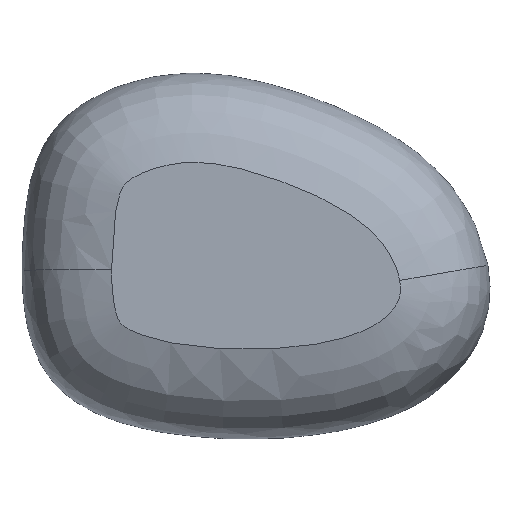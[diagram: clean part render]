
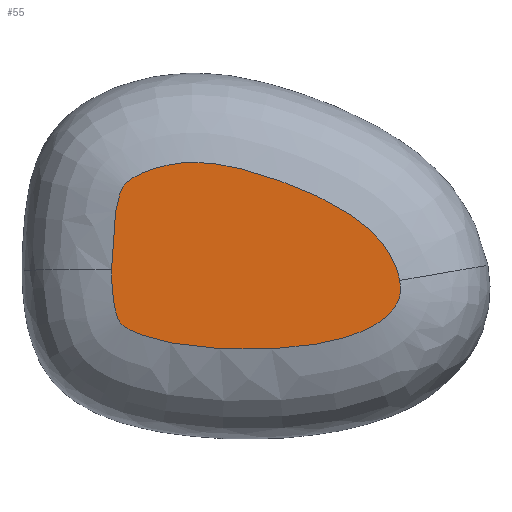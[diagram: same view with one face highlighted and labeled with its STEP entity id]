
A CAD part, top view. The second image highlights one B-rep face of the part: STEP entity #55.
In plain terms, the highlighted planar face has unit normal (0, 0, 1).
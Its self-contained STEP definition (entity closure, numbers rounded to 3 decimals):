
#24=B_SPLINE_CURVE_WITH_KNOTS('',3,(#2348,#2349,#2350,#2351,#2352,#2353,
#2354,#2355,#2356,#2357,#2358,#2359,#2360,#2361,#2362,#2363,#2364,#2365,
#2366,#2367,#2368,#2369,#2370,#2371,#2372,#2373,#2374,#2375,#2376,#2377,
#2378,#2379,#2380,#2381,#2382,#2383,#2384,#2385),.UNSPECIFIED.,.F.,.F.,
(4,1,1,1,1,1,1,1,1,1,1,1,1,1,1,1,1,1,1,1,1,1,1,1,1,1,1,1,1,1,1,1,1,1,1,
4),(-2498.24,-2460.288,-2439.066,-2398.96,
-2361.052,-2325.655,-2291.987,-2259.131,
-2226.749,-2210.417,-2193.833,-2159.787,
-2124.569,-2088.362,-2051.972,-2015.348,
-1978.48,-1942.131,-1905.905,-1869.31,
-1831.911,-1793.331,-1753.779,-1733.641,
-1712.524,-1669.186,-1624.878,-1580.151,
-1535.467,-1491.172,-1447.451,-1404.32,-1361.857,
-1320.206,-1279.503,-1239.832),.UNSPECIFIED.);
#27=B_SPLINE_CURVE_WITH_KNOTS('',3,(#2438,#2439,#2440,#2441,#2442,#2443,
#2444,#2445,#2446,#2447,#2448,#2449,#2450,#2451,#2452,#2453,#2454,#2455,
#2456,#2457,#2458,#2459,#2460,#2461,#2462,#2463,#2464,#2465,#2466,#2467,
#2468,#2469,#2470,#2471,#2472,#2473,#2474),.UNSPECIFIED.,.F.,.F.,(4,1,1,
1,1,1,1,1,1,1,1,1,1,1,1,1,1,1,1,1,1,1,1,1,1,1,1,1,1,1,1,1,1,1,4),(-1239.832,
-1201.177,-1182.184,-1163.364,-1125.968,
-1088.885,-1051.085,-1011.539,-970.238,
-926.727,-904.008,-880.6,-831.735,
-780.312,-727.381,-672.744,-616.19,
-559.008,-501.943,-446.009,-392.147,-366.237,
-341.106,-316.796,-293.911,-271.794,
-249.821,-229.021,-211.693,-177.341,
-142.768,-107.598,-71.809,-35.647,
0.),.UNSPECIFIED.);
#55=ADVANCED_FACE('',(#75),#241,.T.);
#75=FACE_OUTER_BOUND('',#95,.T.);
#95=EDGE_LOOP('',(#150,#151));
#150=ORIENTED_EDGE('',*,*,#186,.F.);
#151=ORIENTED_EDGE('',*,*,#183,.F.);
#183=EDGE_CURVE('',#229,#231,#24,.T.);
#186=EDGE_CURVE('',#231,#229,#27,.T.);
#229=VERTEX_POINT('',#2294);
#231=VERTEX_POINT('',#2296);
#241=PLANE('',#351);
#351=AXIS2_PLACEMENT_3D('',#1760,#371,$);
#371=DIRECTION('',(0.,0.,1.));
#1760=CARTESIAN_POINT('',(-7731.326,-2164.739,360.));
#2294=CARTESIAN_POINT('',(-7726.961,-2330.027,360.));
#2296=CARTESIAN_POINT('',(-7291.65,-2345.925,360.));
#2348=CARTESIAN_POINT('',(-7726.961,-2330.027,360.));
#2349=CARTESIAN_POINT('',(-7726.962,-2321.909,360.));
#2350=CARTESIAN_POINT('',(-7726.648,-2308.734,360.));
#2351=CARTESIAN_POINT('',(-7725.477,-2284.963,360.));
#2352=CARTESIAN_POINT('',(-7723.808,-2262.856,360.));
#2353=CARTESIAN_POINT('',(-7720.92,-2240.754,360.));
#2354=CARTESIAN_POINT('',(-7717.347,-2223.78,360.));
#2355=CARTESIAN_POINT('',(-7713.551,-2212.019,360.));
#2356=CARTESIAN_POINT('',(-7710.227,-2205.096,360.));
#2357=CARTESIAN_POINT('',(-7708.182,-2202.155,360.));
#2358=CARTESIAN_POINT('',(-7706.757,-2200.476,360.));
#2359=CARTESIAN_POINT('',(-7704.185,-2197.898,360.));
#2360=CARTESIAN_POINT('',(-7698.397,-2193.254,360.));
#2361=CARTESIAN_POINT('',(-7687.635,-2186.823,360.));
#2362=CARTESIAN_POINT('',(-7673.698,-2180.54,360.));
#2363=CARTESIAN_POINT('',(-7657.527,-2175.119,360.));
#2364=CARTESIAN_POINT('',(-7639.999,-2170.974,360.));
#2365=CARTESIAN_POINT('',(-7622.142,-2168.379,360.));
#2366=CARTESIAN_POINT('',(-7604.44,-2167.388,360.));
#2367=CARTESIAN_POINT('',(-7586.061,-2167.923,360.));
#2368=CARTESIAN_POINT('',(-7566.458,-2170.06,360.));
#2369=CARTESIAN_POINT('',(-7545.133,-2173.927,360.));
#2370=CARTESIAN_POINT('',(-7521.871,-2179.629,360.));
#2371=CARTESIAN_POINT('',(-7501.044,-2185.852,360.));
#2372=CARTESIAN_POINT('',(-7483.284,-2191.74,360.));
#2373=CARTESIAN_POINT('',(-7464.649,-2198.281,360.));
#2374=CARTESIAN_POINT('',(-7441.568,-2207.154,360.));
#2375=CARTESIAN_POINT('',(-7414.97,-2218.838,360.));
#2376=CARTESIAN_POINT('',(-7390.026,-2231.536,360.));
#2377=CARTESIAN_POINT('',(-7367.496,-2245.019,360.));
#2378=CARTESIAN_POINT('',(-7347.986,-2259.025,360.));
#2379=CARTESIAN_POINT('',(-7332.29,-2272.83,360.));
#2380=CARTESIAN_POINT('',(-7319.691,-2286.823,360.));
#2381=CARTESIAN_POINT('',(-7308.816,-2302.149,360.));
#2382=CARTESIAN_POINT('',(-7300.429,-2317.651,360.));
#2383=CARTESIAN_POINT('',(-7294.592,-2332.615,360.));
#2384=CARTESIAN_POINT('',(-7292.372,-2341.748,360.));
#2385=CARTESIAN_POINT('',(-7291.65,-2345.925,360.));
#2438=CARTESIAN_POINT('',(-7291.65,-2345.925,360.));
#2439=CARTESIAN_POINT('',(-7290.946,-2349.994,360.));
#2440=CARTESIAN_POINT('',(-7290.426,-2355.595,360.));
#2441=CARTESIAN_POINT('',(-7290.555,-2361.714,360.));
#2442=CARTESIAN_POINT('',(-7291.09,-2366.906,360.));
#2443=CARTESIAN_POINT('',(-7292.515,-2373.091,360.));
#2444=CARTESIAN_POINT('',(-7295.583,-2380.545,360.));
#2445=CARTESIAN_POINT('',(-7300.493,-2388.551,360.));
#2446=CARTESIAN_POINT('',(-7307.948,-2397.279,360.));
#2447=CARTESIAN_POINT('',(-7318.642,-2406.539,360.));
#2448=CARTESIAN_POINT('',(-7330.529,-2414.19,360.));
#2449=CARTESIAN_POINT('',(-7341.979,-2420.026,360.));
#2450=CARTESIAN_POINT('',(-7355.926,-2426.093,360.));
#2451=CARTESIAN_POINT('',(-7377.061,-2433.286,360.));
#2452=CARTESIAN_POINT('',(-7406.773,-2440.429,360.));
#2453=CARTESIAN_POINT('',(-7440.123,-2445.787,360.));
#2454=CARTESIAN_POINT('',(-7476.312,-2449.186,360.));
#2455=CARTESIAN_POINT('',(-7514.522,-2450.532,360.));
#2456=CARTESIAN_POINT('',(-7554.178,-2449.799,360.));
#2457=CARTESIAN_POINT('',(-7592.819,-2447.072,360.));
#2458=CARTESIAN_POINT('',(-7628.631,-2442.27,360.));
#2459=CARTESIAN_POINT('',(-7655.223,-2436.575,360.));
#2460=CARTESIAN_POINT('',(-7673.447,-2431.256,360.));
#2461=CARTESIAN_POINT('',(-7685.171,-2427.106,360.));
#2462=CARTESIAN_POINT('',(-7694.842,-2422.962,360.));
#2463=CARTESIAN_POINT('',(-7702.354,-2419.064,360.));
#2464=CARTESIAN_POINT('',(-7707.713,-2415.691,360.));
#2465=CARTESIAN_POINT('',(-7711.019,-2413.094,360.));
#2466=CARTESIAN_POINT('',(-7712.139,-2411.989,360.));
#2467=CARTESIAN_POINT('',(-7713.098,-2410.877,360.));
#2468=CARTESIAN_POINT('',(-7715.112,-2407.962,360.));
#2469=CARTESIAN_POINT('',(-7718.533,-2400.377,360.));
#2470=CARTESIAN_POINT('',(-7722.062,-2388.181,360.));
#2471=CARTESIAN_POINT('',(-7724.893,-2371.853,360.));
#2472=CARTESIAN_POINT('',(-7726.606,-2352.313,360.));
#2473=CARTESIAN_POINT('',(-7726.962,-2337.636,360.));
#2474=CARTESIAN_POINT('',(-7726.961,-2330.027,360.));
